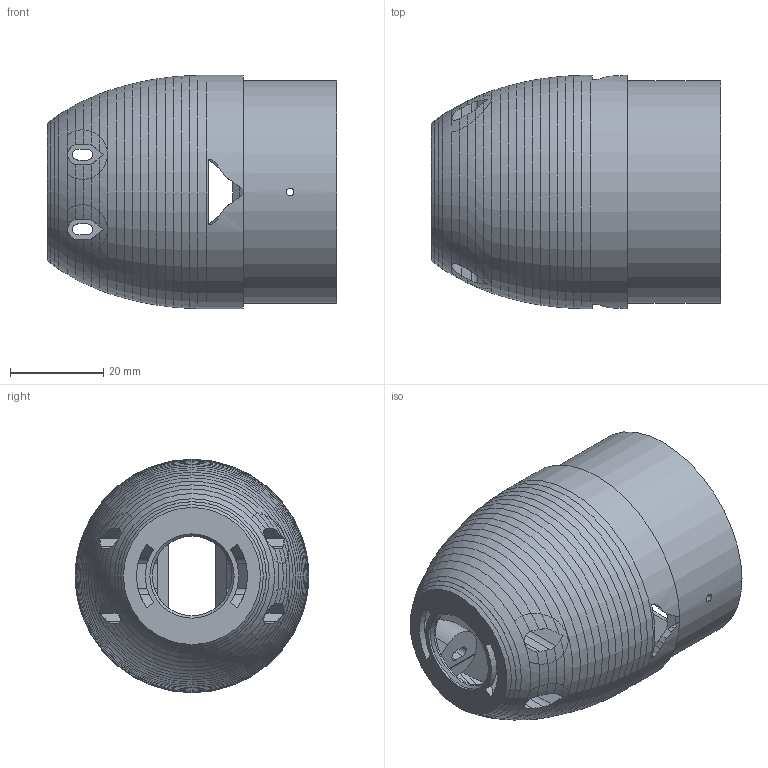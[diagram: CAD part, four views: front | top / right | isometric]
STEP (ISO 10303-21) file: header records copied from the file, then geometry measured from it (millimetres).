
FILE_DESCRIPTION(('SkyG Speed 120B - revision C7B-1 - 2026-10-09','N0O-nose-dji-o4'),'2;1');
FILE_NAME('N0O-nose-dji-o4_C7B-1','2026-10-09T15:13:00',('Author'),( 'Open CASCADE'),'Open CASCADE STEP processor 7.9','Open CASCADE 7.9' ,'Unknown');
FILE_SCHEMA(('AUTOMOTIVE_DESIGN { 1 0 10303 214 1 1 1 1 }'));
Length unit declared in the file: millimetre
Products named in the file (1): N0O-nose-dji-o4 C7B-1
Bounding box: 62 x 50 x 50 mm (x, y, z)
Volume: 49188.7 mm3; surface area: 23392 mm2
Topology: 1 solids, 1 shells, 374 faces, 1064 edges, 688 vertices
Faces by surface type: plane 193, cone 106, cylinder 49, bspline 26
Full cylindrical faces by diameter (mm): 1.6 x2, 17.04 x1, 18.046 x1, 43.8 x1, 47.7 x1, 50 x1
Entity records: 31040 total; most frequent: CARTESIAN_POINT 11784, DIRECTION 3037, ORIENTED_EDGE 2128, PCURVE 2128, DEFINITIONAL_REPRESENTATION 2128, LINE 1478, VECTOR 1478, B_SPLINE_CURVE_WITH_KNOTS 1132
